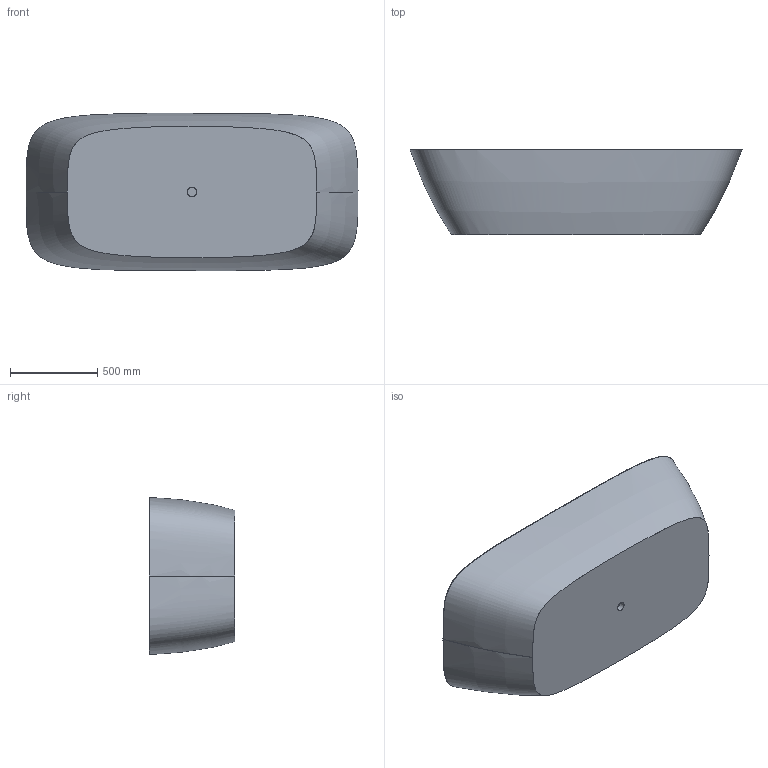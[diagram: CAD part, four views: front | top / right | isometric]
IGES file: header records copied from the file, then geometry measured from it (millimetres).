
Start section: SolidWorks IGES file using analytic representation for surfaces
Global section: file name: D:\Users\M.Szymanski\Desktop\Wanny\LaSenia\03. do przegrania\44\WP_LaSENIA_90x190x44.IGS; native system: SolidWorks 2011; preprocessor: SolidWorks 2011; author: M.Szymanski; date: 180530.111830; units: millimetre
Bounding box: 1899.51 x 490 x 899.91 mm (x, y, z)
Surface area: 6355720.5 mm2 (no closed solid volume)
Topology: 0 solids, 0 shells, 49 faces, 1413 edges, 1412 vertices
Faces by surface type: bspline 37, revolution 12
